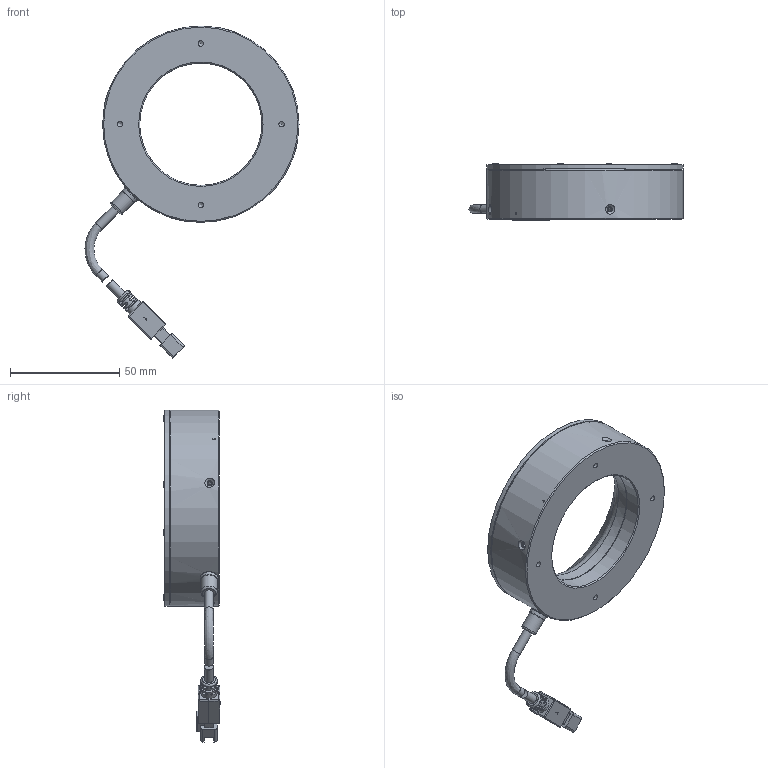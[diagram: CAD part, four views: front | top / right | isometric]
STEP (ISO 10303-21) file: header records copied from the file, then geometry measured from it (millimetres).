
FILE_DESCRIPTION (( 'STEP AP203' ), '1' );
FILE_NAME ('OPT-IRI9045-IR-V2.0U.STEP', '2025-02-15T00:44:19', ( '' ), ( '' ), 'SwSTEP 2.0', 'SolidWorks 2016', '' );
FILE_SCHEMA (( 'CONFIG_CONTROL_DESIGN' ));
Length unit declared in the file: millimetre
Products named in the file (1): OPT-IRI9045-IR-V2.0U
Bounding box: 98.09 x 25.85 x 152.11 mm (x, y, z)
Volume: 71806.2 mm3; surface area: 37214 mm2
Topology: 12 solids, 12 shells, 476 faces, 1186 edges, 757 vertices
Faces by surface type: plane 259, cylinder 138, cone 40, bspline 29, torus 6, sphere 4
Full cylindrical faces by diameter (mm): 1.05 x2, 1.1 x6, 1.4 x4, 1.6 x4, 1.7 x4, 2 x4, 2.4 x4, 2.5 x4, 2.6 x4, 3.5 x1, 4.1 x4, 5.8 x1, 7.5 x2, 8 x1, 56 x2, 58.6 x1, 81.8 x1, 86 x1, 90 x2
Entity records: 15150 total; most frequent: CARTESIAN_POINT 4529, DIRECTION 2113, ORIENTED_EDGE 2080, EDGE_CURVE 1040, AXIS2_PLACEMENT_3D 729, VERTEX_POINT 716, VECTOR 655, LINE 655
